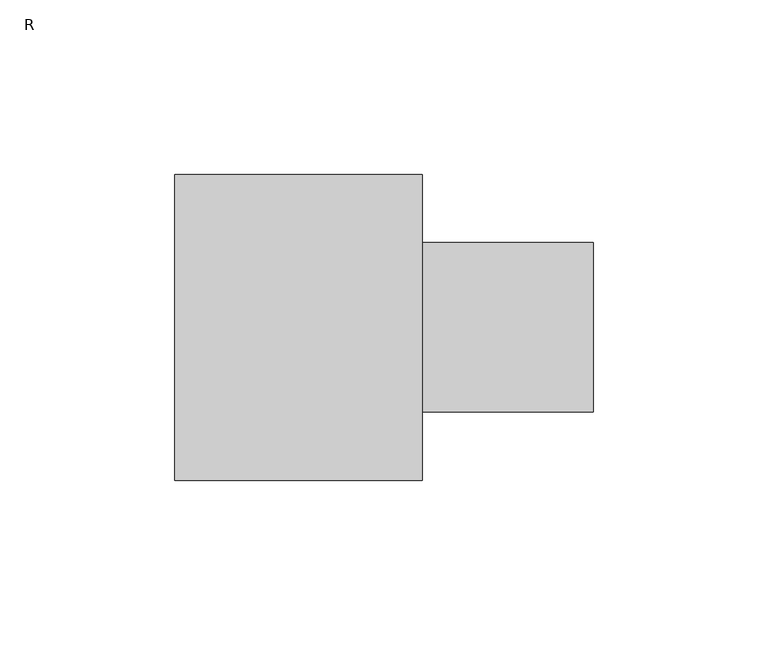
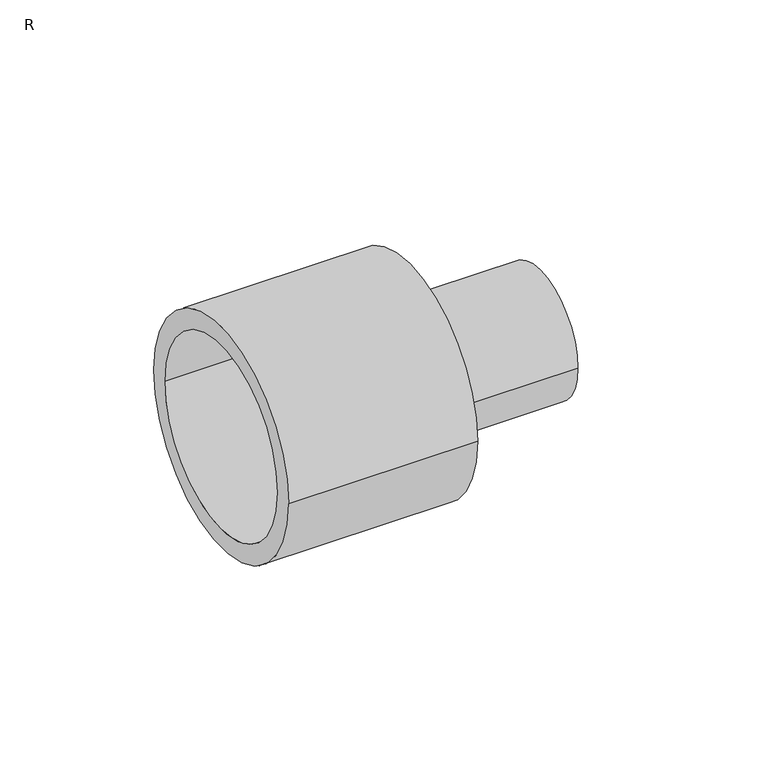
"""IFC4 building model written with IfcOpenShell, lengths in millimetres: pipe fitting geometry, FUSAPEX reducer : R."""

import ifcopenshell
import ifcopenshell.guid

model = None  # the IFC model being written
_history = None  # IfcOwnerHistory: only IFC2X3 demands one
_inside = {}  # id of a spatial element -> (the spatial element, [elements in it])
_under = {}  # id of a project, library or spatial element -> (it, [spatial elements below it])
_declared = {}  # id of a project -> (the project, [libraries it declares])
_typed = {}  # id of a type object -> (the type object, [elements of that type])
_made_of = {}  # id of a material, layer set ... -> (it, [elements and type objects made of it])


def new_model(schema):
    """Start an empty IFC model of exactly this schema.

    Asked for "IFC4X3", IfcOpenShell would pick the latest addendum, in which some entities
    have other attributes; the version numbers below select the first issue.
    IFC2X3 requires an IfcOwnerHistory on every rooted entity: one is made here for all.
    """
    global model, _history
    if schema == "IFC4X3":
        model = ifcopenshell.file(schema_version=(4, 3, 0, 0))
    else:
        model = ifcopenshell.file(schema=schema)
    _inside.clear()
    _under.clear()
    _declared.clear()
    _typed.clear()
    _made_of.clear()
    _history = None
    if model.schema == "IFC2X3":
        org = make("IfcOrganization", Name="unknown")
        user = make(
            "IfcPersonAndOrganization",
            ThePerson=make("IfcPerson", FamilyName="unknown"),
            TheOrganization=org,
        )
        app = make(
            "IfcApplication",
            ApplicationDeveloper=org,
            Version="unknown",
            ApplicationFullName="unknown",
            ApplicationIdentifier="unknown",
        )
        _history = make(
            "IfcOwnerHistory",
            OwningUser=user,
            OwningApplication=app,
            ChangeAction="ADDED",
            CreationDate=0,
        )
    return model


def make(cls, **values):
    """One entity of the class cls with the attributes given. An attribute that is None is left unset."""
    return model.create_entity(
        cls, **{name: value for name, value in values.items() if value is not None}
    )


def rooted(cls, **values):
    """An entity with a GlobalId (a new one), such as an element, a storey or a relation."""
    return make(cls, GlobalId=ifcopenshell.guid.new(), OwnerHistory=_history, **values)


def si_unit(unit_type, name, prefix=None):
    """IfcSIUnit, for example si_unit("LENGTHUNIT", "METRE", prefix="MILLI")."""
    return make("IfcSIUnit", UnitType=unit_type, Prefix=prefix, Name=name)


def assignment(units):
    """IfcUnitAssignment: the units of a project."""
    return None if units is None else make("IfcUnitAssignment", Units=units)


def point(xyz):
    """IfcCartesianPoint."""
    return None if xyz is None else make("IfcCartesianPoint", Coordinates=xyz)


def direction(xyz):
    """IfcDirection."""
    return None if xyz is None else make("IfcDirection", DirectionRatios=xyz)


def frame(location, z_axis=None, x_axis=None):
    """IfcAxis2Placement3D, a coordinate frame: its origin and axes. An axis left out is left unset."""
    return make(
        "IfcAxis2Placement3D",
        Location=point(location),
        Axis=direction(z_axis),
        RefDirection=direction(x_axis),
    )


def origin():
    """The frame at (0, 0, 0) with its axes left unset."""
    return frame((0.0, 0.0, 0.0))


def place(relative_to, where):
    """IfcLocalPlacement: puts the frame where relative to a parent placement (None: the world)."""
    return make(
        "IfcLocalPlacement", PlacementRelTo=relative_to, RelativePlacement=where
    )


def context(
    kind, dimensions, precision=None, world=None, true_north=None, identifier=None
):
    """IfcGeometricRepresentationContext, for example the 3D "Model" context."""
    return make(
        "IfcGeometricRepresentationContext",
        ContextIdentifier=identifier,
        ContextType=kind,
        CoordinateSpaceDimension=dimensions,
        Precision=precision,
        WorldCoordinateSystem=world,
        TrueNorth=true_north,
    )


def project(units=None, contexts=None):
    """IfcProject with its units and contexts."""
    return rooted(
        "IfcProject",
        Name="project",
        RepresentationContexts=contexts,
        UnitsInContext=assignment(units),
    )


def spatial(cls, under=None, at=None, **own):
    """A site, building, storey or space (cls), placed at a placement, below another one or the project."""
    s = rooted(cls, ObjectPlacement=at, **own)
    if under is not None:
        _under.setdefault(under.id(), (under, []))[1].append(s)
    return s


def polyline(points):
    """IfcPolyline through the points."""
    return make("IfcPolyline", Points=[point(p) for p in points])


def circle_curve(where, radius):
    """IfcCircle in the frame where."""
    return make("IfcCircle", Position=where, Radius=radius)


def shape(context_of_items, identifier, shape_type, items):
    """IfcShapeRepresentation: the items that make up one representation, for example the "Body"."""
    return make(
        "IfcShapeRepresentation",
        ContextOfItems=context_of_items,
        RepresentationIdentifier=identifier,
        RepresentationType=shape_type,
        Items=items,
    )


def source(mapping_origin, context_of_items, identifier, shape_type, items):
    """IfcRepresentationMap: a shape defined once, which mapped items show again and again."""
    return make(
        "IfcRepresentationMap",
        MappingOrigin=mapping_origin,
        MappedRepresentation=shape(context_of_items, identifier, shape_type, items),
    )


def transform(
    local_origin,
    x_axis=None,
    y_axis=None,
    z_axis=None,
    scale=None,
    scale2=None,
    scale3=None,
    uniform=True,
):
    """IfcCartesianTransformationOperator3D, or its non-uniform kind. x_axis, y_axis, z_axis: its Axis1, 2, 3."""
    if uniform:
        return make(
            "IfcCartesianTransformationOperator3D",
            Axis1=direction(x_axis),
            Axis2=direction(y_axis),
            LocalOrigin=point(local_origin),
            Scale=scale,
            Axis3=direction(z_axis),
        )
    return make(
        "IfcCartesianTransformationOperator3DnonUniform",
        Axis1=direction(x_axis),
        Axis2=direction(y_axis),
        LocalOrigin=point(local_origin),
        Scale=scale,
        Axis3=direction(z_axis),
        Scale2=scale2,
        Scale3=scale3,
    )


def mapped(mapping_source, mapping_target):
    """IfcMappedItem: shows the shape of a source again, moved by a transform."""
    return make(
        "IfcMappedItem", MappingSource=mapping_source, MappingTarget=mapping_target
    )


def made_of(thing, what):
    """Note that an element or type object is made of a material, layer set ...; save() writes the relation."""
    if what is not None:
        _made_of.setdefault(what.id(), (what, []))[1].append(thing)
    return thing


def element(
    cls,
    number,
    at=None,
    inside=None,
    cuts=None,
    type_object=None,
    material=None,
    context=None,
    identifier="Body",
    shape_type=None,
    held_by="IfcProductDefinitionShape",
    body=None,
    shapes=None,
    **own,
):
    """One element of the class cls, such as IfcWall. Its Tag is "e" and its number.

    at: its placement. inside: the storey or other place that contains it. cuts: it is an
    opening in that element (IfcRelVoidsElement). A single representation is given by context,
    identifier, shape_type and body (its items); several are given by shapes. held_by: the class
    of the entity that holds the representations. save() writes the other relations.
    """
    e = rooted(cls, Tag="e%d" % number, ObjectPlacement=at, **own)
    if body is not None:
        shapes = [shape(context, identifier, shape_type, body)]
    if shapes is not None:
        e.Representation = make(held_by, Representations=shapes)
    if inside is not None:
        _inside.setdefault(inside.id(), (inside, []))[1].append(e)
    if cuts is not None:
        rooted(
            "IfcRelVoidsElement", RelatingBuildingElement=cuts, RelatedOpeningElement=e
        )
    if type_object is not None:
        _typed.setdefault(type_object.id(), (type_object, []))[1].append(e)
    return made_of(e, material)


def aggregate(whole, parts):
    """IfcRelAggregates: a whole, such as a stair, and the parts it consists of."""
    return rooted("IfcRelAggregates", RelatingObject=whole, RelatedObjects=parts)


def save(model, path):
    """Write the relations noted so far, then the file.

    IfcRelAggregates (storeys below a building ...), IfcRelContainedInSpatialStructure (elements
    in a storey), IfcRelDefinesByType, IfcRelAssociatesMaterial and IfcRelDeclares: one each for
    every whole, place, type object, material and project.
    """
    for whole, parts in _under.values():
        aggregate(whole, parts)
    for where, things in _inside.values():
        rooted(
            "IfcRelContainedInSpatialStructure",
            RelatedElements=things,
            RelatingStructure=where,
        )
    for kind, things in _typed.values():
        rooted("IfcRelDefinesByType", RelatedObjects=things, RelatingType=kind)
    for what, things in _made_of.values():
        rooted("IfcRelAssociatesMaterial", RelatedObjects=things, RelatingMaterial=what)
    for by, libraries in _declared.values():
        rooted("IfcRelDeclares", RelatingContext=by, RelatedDefinitions=libraries)
    model.write(path)


def plane_surface(at):
    """IfcPlane: the flat surface through the origin of the frame at, square to its z axis."""
    return make("IfcPlane", Position=at)


def cylinder_surface(at, radius):
    """IfcCylindricalSurface: all points at the distance radius from the z axis of the frame at."""
    return make("IfcCylindricalSurface", Position=at, Radius=radius)


def revolved_surface(curve, axis_point, axis_direction):
    """IfcSurfaceOfRevolution: the curve turned about the line through axis_point along axis_direction."""
    return make(
        "IfcSurfaceOfRevolution",
        SweptCurve=make("IfcArbitraryOpenProfileDef", ProfileType="CURVE", Curve=curve),
        AxisPosition=make("IfcAxis1Placement", Location=point(axis_point), Axis=direction(axis_direction)),
    )


def advanced_brep(points, edges, surfaces, faces):
    """IfcAdvancedBrep: a solid bounded by faces that lie on surfaces and meet in shared edges.

    An edge is (start, end): straight between two places in points (the first is 0);
    or (start, end, curve); or (start, end, curve, False) where it runs against its curve.
    A face is (place in surfaces, loops), or (place, loops, False) where it looks against
    its surface's normal. A loop lists edges by number (the first is 1), with a minus sign
    where the edge is run from its end to its start. The first loop is the outer one.
    """
    corners = [point(p) for p in points]
    vertices = [make("IfcVertexPoint", VertexGeometry=c) for c in corners]
    made = []
    for start, end, *more in edges:
        made.append(
            make(
                "IfcEdgeCurve",
                EdgeStart=vertices[start],
                EdgeEnd=vertices[end],
                EdgeGeometry=more[0] if more else make("IfcPolyline", Points=[corners[start], corners[end]]),
                SameSense=more[1] if len(more) > 1 else True,
            )
        )
    hull = []
    for where, loops, *sense in faces:
        bounds = []
        for j, loop in enumerate(loops):
            ring = [make("IfcOrientedEdge", EdgeElement=made[abs(k) - 1], Orientation=k > 0) for k in loop]
            bounds.append(
                make(
                    "IfcFaceOuterBound" if j == 0 else "IfcFaceBound",
                    Bound=make("IfcEdgeLoop", EdgeList=ring),
                    Orientation=True,
                )
            )
        hull.append(make("IfcAdvancedFace", Bounds=bounds, FaceSurface=surfaces[where], SameSense=sense[0] if sense else True))
    return make("IfcAdvancedBrep", Outer=make("IfcClosedShell", CfsFaces=hull))


def r_6692c43e(model_context):
    return source(origin(), model_context, "Body", "AdvancedBrep", [
        advanced_brep(
        [(-71.0, 36.5, 0.0), (-71.0, -36.5, 0.0), (-16.0, -36.5, 0.0), (-16.0, 36.5, 0.0), (0.0, 43.85, 0.0), (0.0, -43.85, 0.0), (-71.0, -43.85, 0.0), (-71.0, 43.85, 0.0), (49.0, 24.25, 0.0), (49.0, -24.25, 0.0), (0.0, -24.25, 0.0), (0.0, 24.25, 0.0), (-16.0, 20.0, 0.0), (-16.0, -20.0, 0.0), (49.0, -20.0, 0.0), (49.0, 20.0, 0.0)],
        [
            (0, 1, circle_curve(frame((-71.0, 0.0, 0.0), z_axis=(-1.0, 0.0, 0.0), x_axis=(0.0, -1.0, 0.0)), 36.5)),
            (1, 2),
            (2, 3, circle_curve(frame((-16.0, 0.0, 0.0), z_axis=(1.0, 0.0, 0.0), x_axis=(0.0, -1.0, 0.0)), 36.5)),
            (3, 0),
            (4, 5, circle_curve(frame((0.0, 0.0, 0.0), z_axis=(-1.0, 0.0, 0.0), x_axis=(0.0, -1.0, 0.0)), 43.85)),
            (5, 6),
            (6, 7, circle_curve(frame((-71.0, 0.0, 0.0), z_axis=(1.0, 0.0, 0.0), x_axis=(0.0, -1.0, 0.0)), 43.85)),
            (7, 4),
            (8, 9, circle_curve(frame((49.0, 0.0, 0.0), z_axis=(-1.0, 0.0, 0.0), x_axis=(0.0, -1.0, 0.0)), 24.25)),
            (9, 10),
            (10, 11, circle_curve(frame((0.0, 0.0, 0.0), z_axis=(1.0, 0.0, 0.0), x_axis=(0.0, -1.0, 0.0)), 24.25)),
            (11, 8),
            (12, 13, circle_curve(frame((-16.0, 0.0, 0.0), z_axis=(-1.0, 0.0, 0.0), x_axis=(0.0, -1.0, 0.0)), 20.0)),
            (13, 14),
            (14, 15, circle_curve(frame((49.0, 0.0, 0.0), z_axis=(1.0, 0.0, 0.0), x_axis=(0.0, -1.0, 0.0)), 20.0)),
            (15, 12),
            (1, 0, circle_curve(frame((-71.0, 0.0, 0.0), z_axis=(-1.0, 0.0, 0.0), x_axis=(0.0, 1.0, 0.0)), 36.5)),
            (3, 2, circle_curve(frame((-16.0, 0.0, 0.0), z_axis=(1.0, 0.0, 0.0), x_axis=(0.0, 1.0, 0.0)), 36.5)),
            (6, 7, circle_curve(frame((-71.0, 0.0, 0.0), z_axis=(-1.0, 0.0, 0.0), x_axis=(0.0, 1.0, 0.0)), 43.85)),
            (5, 4, circle_curve(frame((0.0, 0.0, 0.0), z_axis=(-1.0, 0.0, 0.0), x_axis=(0.0, 1.0, 0.0)), 43.85)),
            (10, 11, circle_curve(frame((0.0, 0.0, 0.0), z_axis=(-1.0, 0.0, 0.0), x_axis=(0.0, 1.0, 0.0)), 24.25)),
            (9, 8, circle_curve(frame((49.0, 0.0, 0.0), z_axis=(-1.0, 0.0, 0.0), x_axis=(0.0, 1.0, 0.0)), 24.25)),
            (14, 15, circle_curve(frame((49.0, 0.0, 0.0), z_axis=(-1.0, 0.0, 0.0), x_axis=(0.0, 1.0, 0.0)), 20.0)),
            (13, 12, circle_curve(frame((-16.0, 0.0, 0.0), z_axis=(-1.0, 0.0, 0.0), x_axis=(0.0, 1.0, 0.0)), 20.0)),
        ],
        [
            revolved_surface(polyline([(-16.0, -36.5, 0.0), (-71.0, -36.5, 0.0)]), (0.0, 0.0, 0.0), (1.0, 0.0, 0.0)),
            cylinder_surface(frame((0.0, 0.0, 0.0), z_axis=(1.0, 0.0, 0.0), x_axis=(0.0, -1.0, 0.0)), 43.85),
            cylinder_surface(frame((0.0, 0.0, 0.0), z_axis=(1.0, 0.0, 0.0), x_axis=(0.0, -1.0, 0.0)), 24.25),
            revolved_surface(polyline([(49.0, -20.0, 0.0), (-16.0, -20.0, 0.0)]), (0.0, 0.0, 0.0), (1.0, 0.0, 0.0)),
            revolved_surface(polyline([(-16.0, 36.5, 0.0), (-71.0, 36.5, 0.0)]), (0.0, 0.0, 0.0), (1.0, 0.0, 0.0)),
            plane_surface(frame((-71.0, 0.0, 0.0), z_axis=(-1.0, 0.0, 0.0), x_axis=(0.0, 1.0, 0.0))),
            cylinder_surface(frame((0.0, 0.0, 0.0), z_axis=(1.0, 0.0, 0.0), x_axis=(0.0, 1.0, 0.0)), 43.85),
            plane_surface(frame((0.0, 0.0, 0.0), z_axis=(1.0, 0.0, 0.0), x_axis=(0.0, 1.0, 0.0))),
            cylinder_surface(frame((0.0, 0.0, 0.0), z_axis=(1.0, 0.0, 0.0), x_axis=(0.0, 1.0, 0.0)), 24.25),
            plane_surface(frame((49.0, 0.0, 0.0), z_axis=(1.0, 0.0, 0.0), x_axis=(0.0, 1.0, 0.0))),
            revolved_surface(polyline([(49.0, 20.0, 0.0), (-16.0, 20.0, 0.0)]), (0.0, 0.0, 0.0), (1.0, 0.0, 0.0)),
            plane_surface(frame((-16.0, 0.0, 0.0), z_axis=(-1.0, 0.0, 0.0), x_axis=(0.0, 1.0, 0.0))),
        ],
        [
            (0, [[1, 2, 3, 4]]),
            (1, [[5, 6, 7, 8]]),
            (2, [[9, 10, 11, 12]]),
            (3, [[13, 14, 15, 16]]),
            (4, [[17, -4, 18, -2]]),
            (5, [[19, -7], [-17, -1]]),
            (6, [[20, -8, -19, -6]]),
            (7, [[-20, -5], [21, -11]]),
            (8, [[22, -12, -21, -10]]),
            (9, [[-22, -9], [23, -15]]),
            (10, [[24, -16, -23, -14]]),
            (11, [[-18, -3], [-24, -13]]),
        ],
    ),
    ])


if __name__ == "__main__":
    model = new_model("IFC4")
    model_context = context("Model", 3, world=origin())
    ifc_project = project(units=[si_unit("LENGTHUNIT", "METRE", prefix="MILLI")], contexts=[model_context])
    site = spatial("IfcSite", under=ifc_project)
    building = spatial("IfcBuilding", under=site)
    placement = place(None, origin())
    r_shape = r_6692c43e(model_context)
    element("IfcPipeFitting", 1, ObjectType="FUSAPEX reducer : R", at=placement, inside=building, context=model_context, shape_type="MappedRepresentation", body=[
        mapped(r_shape, transform((0.0, 0.0, 0.0), x_axis=(1.0, 0.0, 0.0), y_axis=(0.0, 1.0, 0.0), z_axis=(0.0, 0.0, 1.0))),
    ])
    save(model, "model.ifc")
